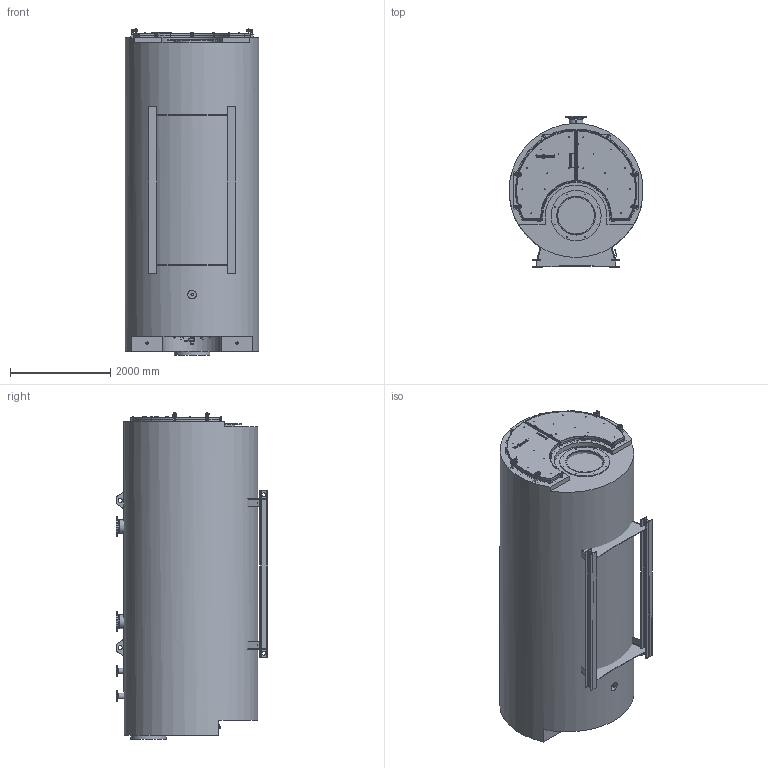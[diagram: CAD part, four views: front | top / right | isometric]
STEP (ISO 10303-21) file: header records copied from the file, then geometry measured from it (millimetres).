
FILE_DESCRIPTION(/* description */ (''),/* implementation_level */ '2;1');
FILE_NAME(/* name */ 'FU0284806_T001.stp',/* time_stamp */ '2017-05-10T13:55:50+02:00',/* author */ (''),/* organization */ (''),/* preprocessor_version */ 'ST-DEVELOPER v16',/* originating_system */ 'SIEMENS PLM Software NX 10.0',/* authorisation */ '');
FILE_SCHEMA (('AUTOMOTIVE_DESIGN { 1 0 10303 214 3 1 1 1 }'));
Length unit declared in the file: millimetre
Products named in the file (121): 9028015_T001; 5520421_T001; 5520412_T001; 5520211_T001; 5655433_T001; 9024203_T001; 5655434_T001; 5639538_T001; 6037895_T001; 5634567_T003; 5555457_T001; 9578654_T001; 5975806_T001; 6037858_T001; 6037935_T001; 6037857_T001; 6037856_T001; 6037859_T001; 5634020_T004; 5152223_T004; 9505968_T001; 5761207_T002; 9017087_T001; 5628864_T002; 5291422_T005; 5620460_T004; 9542040_T001; 9542038_T002; 9045119_T001; 5456644_T005; 5656673_T003; 5275142_T005; 5656677_T004; 9589709_T001; 9559984_T001; 9548563_T001; 5755232_T001; 5995843_T001; 5621515_T006; 5621514_T006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
Assembly tree (301 placements, depth 6):
  FU0284806_T001
    FU0284807_T001
    FU0287457_T001_MODELNX-ARRAGMNT110°C
      7642105_T001_MODEL
        7642104_T001_MODEL
          5551132_T001
          5551176_T003
          5157685_T004  x2
          5551127_T001  x2
          5551206_T003
          6037123_T001
          5655858_T001
          5554090_T001  x2
          9529527_T001  x12
          6039710_T001
        5559707_T001  x2
        7492387_T001_MODEL  x2
          5456551_T004
          5015776_T001
        9588992_T002  x12
        9607197_T001  x12
      7642291_T001_MODEL
        5636687_T003  x4
        9557196_T001  x4
        9516387_T001  x4
        9028008_T001  x8
        9668198_T001  x8
        7642295_T001_MODEL
          6037496_T001
          6037503_T001
          7642293_T001_MODEL
            6037859_T001
            6037856_T001
            6037857_T001
            6037935_T001
            6037858_T001
            5975806_T001  x2
            9578654_T001  x9
          6037513_T001
          6038008_T001
          6038009_T001
          9649746_T001
          9516963_T001  x9
          FU0258122_T001
        5558237_T005  x2
        7642290_T001_MODEL
          7478659_T001_MODEL  x4
            5555457_T001
            5634567_T003
          5188334_T001  x4
          6037488_T001
          6037489_T001  x2
          6037490_T001
          6037491_T001  x2
          9639650_T001  x2
          5749858_T002  x10
        7642294_T001_MODEL
          6037496_T001
          6037497_T001
          6037503_T001
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Bounding box: 2665.52 x 3020 x 6507.9 mm (x, y, z)
Volume: 34581614218.9 mm3; surface area: 126124392.2 mm2
Topology: 306 solids, 306 shells, 3749 faces, 8665 edges, 5632 vertices
Faces by surface type: plane 1956, cylinder 1062, cone 488, bspline 112, torus 80, extrusion 47, sphere 4
Full cylindrical faces by diameter (mm): 1 x32, 2.2 x3, 3.2 x3, 3.3 x3, 4 x6, 4.6 x4, 5 x4, 5.2 x1, 5.5 x1, 6.5 x3, 6.647 x18, 7.8 x20, 8 x21, 8.376 x12, 10 x12, 10.106 x9, 10.5 x22, 10.86 x9, 12 x97, 13 x6, 13.27 x16, 14 x16, 14.63 x12, 15 x17, 15.5 x9, 16 x4, 17.294 x8, 18 x44, 20 x19, 21.33 x8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
Entity records: 53505 total; most frequent: CARTESIAN_POINT 12256, DIRECTION 7615, ORIENTED_EDGE 6714, EDGE_CURVE 3357, AXIS2_PLACEMENT_3D 2994, VERTEX_POINT 2472, EDGE_LOOP 2339, VECTOR 1627
